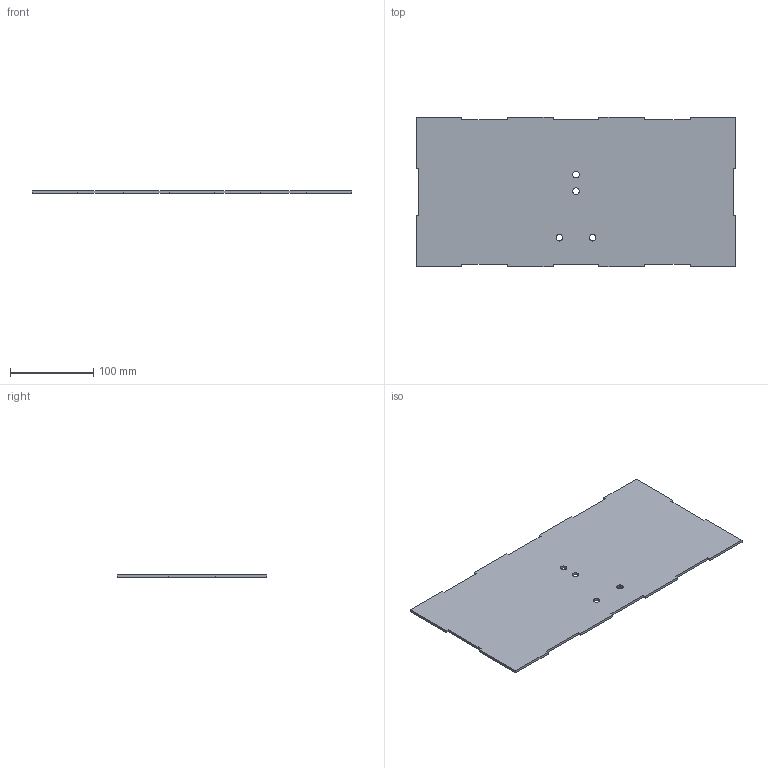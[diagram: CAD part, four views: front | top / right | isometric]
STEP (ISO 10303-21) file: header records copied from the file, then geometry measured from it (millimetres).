
FILE_DESCRIPTION (( 'STEP AP203' ), '1' );
FILE_NAME ('Structure support socle.STEP', '2025-09-18T11:54:02', ( '' ), ( '' ), 'SwSTEP 2.0', 'SolidWorks 2019', '' );
FILE_SCHEMA (( 'CONFIG_CONTROL_DESIGN' ));
Length unit declared in the file: millimetre
Products named in the file (1): Structure support socle
Bounding box: 385 x 180 x 3 mm (x, y, z)
Volume: 203318.8 mm3; surface area: 139381.5 mm2
Topology: 1 solids, 1 shells, 46 faces, 132 edges, 88 vertices
Faces by surface type: plane 38, cylinder 8
Entity records: 1585 total; most frequent: CARTESIAN_POINT 267, ORIENTED_EDGE 264, DIRECTION 242, EDGE_CURVE 132, LINE 116, VECTOR 116, VERTEX_POINT 88, AXIS2_PLACEMENT_3D 63
